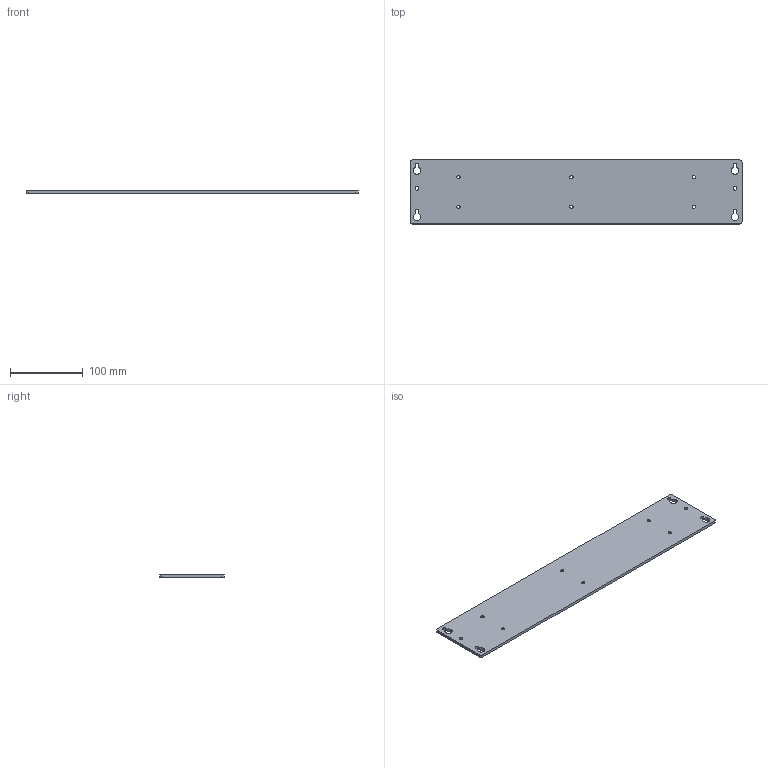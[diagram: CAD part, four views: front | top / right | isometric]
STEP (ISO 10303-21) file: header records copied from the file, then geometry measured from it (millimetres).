
FILE_DESCRIPTION((''),'2;1');
FILE_NAME('CU_NI-9907','2014-06-10T',('jbuhisan'),(''),'PRO/ENGINEER BY PARAMETRIC TECHNOLOGY CORPORATION, 2014000','PRO/ENGINEER BY PARAMETRIC TECHNOLOGY CORPORATION, 2014000','');
FILE_SCHEMA(('CONFIG_CONTROL_DESIGN'));
Length unit declared in the file: inch
Products named in the file (1): CU_NI-9907
Bounding box: 457.2 x 88.14 x 4 mm (x, y, z)
Volume: 158647.8 mm3; surface area: 84857.6 mm2
Topology: 1 solids, 1 shells, 54 faces, 144 edges, 92 vertices
Faces by surface type: cylinder 28, plane 14, cone 12
Entity records: 1788 total; most frequent: DIRECTION 320, CARTESIAN_POINT 290, ORIENTED_EDGE 288, EDGE_CURVE 144, AXIS2_PLACEMENT_3D 122, VERTEX_POINT 92, EDGE_LOOP 78, VECTOR 76
